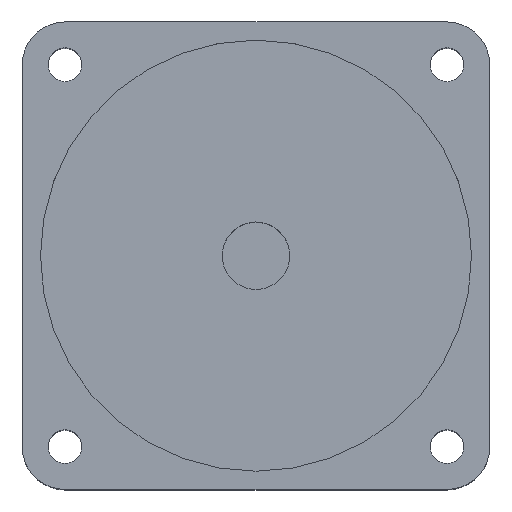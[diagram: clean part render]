
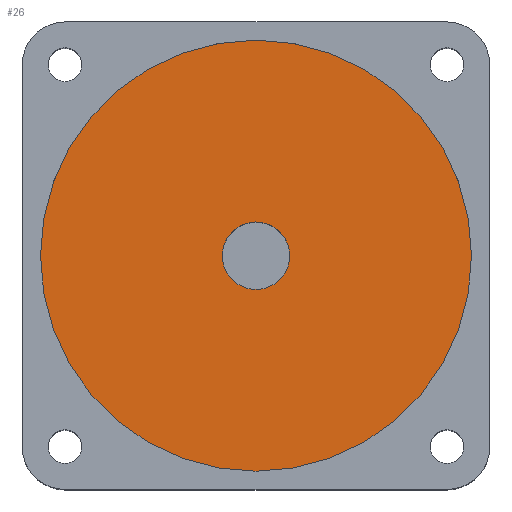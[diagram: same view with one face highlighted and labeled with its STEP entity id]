
A CAD part, top view. The second image highlights one B-rep face of the part: STEP entity #26.
In plain terms, the highlighted planar face has unit normal (0, 0, 1).
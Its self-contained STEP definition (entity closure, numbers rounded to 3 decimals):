
#14 = EDGE_LOOP ( 'NONE', ( #617, #168 ) ) ;
#26 = ADVANCED_FACE ( 'NONE', ( #980, #746 ), #139, .T. ) ;
#30 = CIRCLE ( 'NONE', #873, 6.5 ) ;
#81 = ORIENTED_EDGE ( 'NONE', *, *, #679, .T. ) ;
#136 = EDGE_CURVE ( 'NONE', #1551, #508, #277, .T. ) ;
#139 = PLANE ( 'NONE',  #403 ) ;
#168 = ORIENTED_EDGE ( 'NONE', *, *, #462, .T. ) ;
#223 = DIRECTION ( 'NONE',  ( 1., 0., 0. ) ) ;
#236 = CARTESIAN_POINT ( 'NONE',  ( 0., 0., -2. ) ) ;
#277 = CIRCLE ( 'NONE', #381, 41.5 ) ;
#338 = EDGE_LOOP ( 'NONE', ( #584, #81 ) ) ;
#381 = AXIS2_PLACEMENT_3D ( 'NONE', #1103, #1555, #961 ) ;
#403 = AXIS2_PLACEMENT_3D ( 'NONE', #236, #492, #1086 ) ;
#408 = VERTEX_POINT ( 'NONE', #1076 ) ;
#429 = VERTEX_POINT ( 'NONE', #970 ) ;
#462 = EDGE_CURVE ( 'NONE', #429, #408, #30, .T. ) ;
#492 = DIRECTION ( 'NONE',  ( 0., 0., 1. ) ) ;
#508 = VERTEX_POINT ( 'NONE', #861 ) ;
#518 = AXIS2_PLACEMENT_3D ( 'NONE', #1248, #1385, #646 ) ;
#584 = ORIENTED_EDGE ( 'NONE', *, *, #136, .T. ) ;
#617 = ORIENTED_EDGE ( 'NONE', *, *, #1558, .T. ) ;
#627 = CIRCLE ( 'NONE', #518, 6.5 ) ;
#646 = DIRECTION ( 'NONE',  ( 1., 0., 0. ) ) ;
#675 = DIRECTION ( 'NONE',  ( 0., 0., 1. ) ) ;
#679 = EDGE_CURVE ( 'NONE', #508, #1551, #1514, .T. ) ;
#746 = FACE_BOUND ( 'NONE', #14, .T. ) ;
#850 = AXIS2_PLACEMENT_3D ( 'NONE', #1391, #675, #1159 ) ;
#861 = CARTESIAN_POINT ( 'NONE',  ( -41.5, 0., -2. ) ) ;
#873 = AXIS2_PLACEMENT_3D ( 'NONE', #1564, #1216, #223 ) ;
#911 = CARTESIAN_POINT ( 'NONE',  ( 41.5, 0., -2. ) ) ;
#961 = DIRECTION ( 'NONE',  ( 1., 0., 0. ) ) ;
#970 = CARTESIAN_POINT ( 'NONE',  ( -6.5, 0., -2. ) ) ;
#980 = FACE_OUTER_BOUND ( 'NONE', #338, .T. ) ;
#1076 = CARTESIAN_POINT ( 'NONE',  ( 6.5, 0., -2. ) ) ;
#1086 = DIRECTION ( 'NONE',  ( 1., 0., 0. ) ) ;
#1103 = CARTESIAN_POINT ( 'NONE',  ( 0., 0., -2. ) ) ;
#1159 = DIRECTION ( 'NONE',  ( 1., 0., 0. ) ) ;
#1216 = DIRECTION ( 'NONE',  ( 0., 0., -1. ) ) ;
#1248 = CARTESIAN_POINT ( 'NONE',  ( 0., 0., -2. ) ) ;
#1385 = DIRECTION ( 'NONE',  ( 0., 0., -1. ) ) ;
#1391 = CARTESIAN_POINT ( 'NONE',  ( 0., 0., -2. ) ) ;
#1514 = CIRCLE ( 'NONE', #850, 41.5 ) ;
#1551 = VERTEX_POINT ( 'NONE', #911 ) ;
#1555 = DIRECTION ( 'NONE',  ( 0., 0., 1. ) ) ;
#1558 = EDGE_CURVE ( 'NONE', #408, #429, #627, .T. ) ;
#1564 = CARTESIAN_POINT ( 'NONE',  ( 0., 0., -2. ) ) ;
